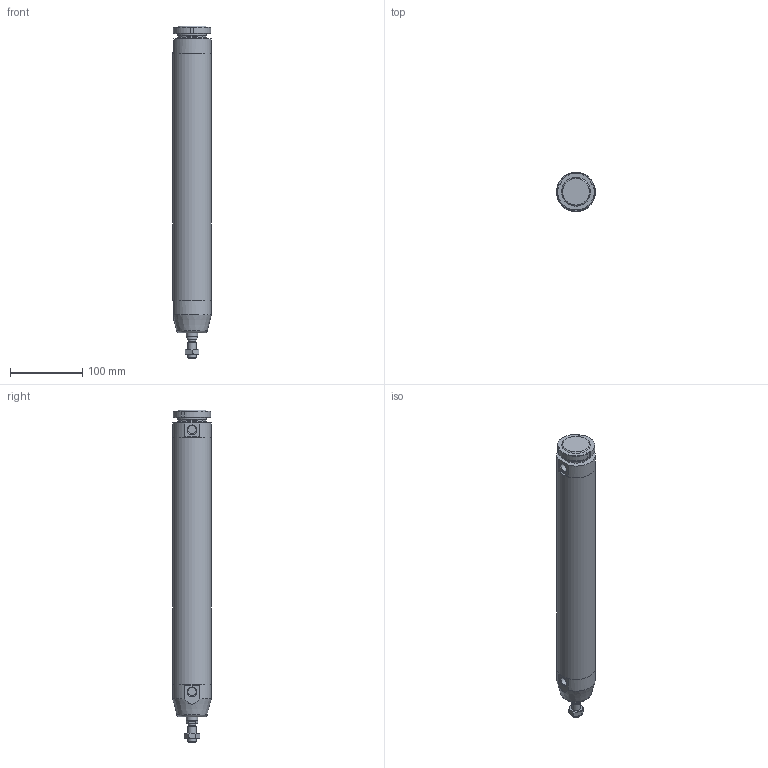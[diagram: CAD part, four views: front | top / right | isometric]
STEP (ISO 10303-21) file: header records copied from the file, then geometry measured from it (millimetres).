
FILE_DESCRIPTION(/* description */ (''),/* implementation_level */ '2;1');
FILE_NAME(/* name */ 'I:\Area Tecnica\Documenti\A-Manieri\_Inventor\12X\12X#B_###_####_#_#\12XAB_050_0300_#_#.stp',/* time_stamp */ '2015-04-27T16:25:41+02:00',/* author */ ('maniean1'),/* organization */ ('Pneumax S.p.A.'),/* preprocessor_version */ 'ST-DEVELOPER v15.2',/* originating_system */ 'Autodesk Inventor 2014',/* authorisation */ '');
FILE_SCHEMA (('AUTOMOTIVE_DESIGN { 1 0 10303 214 3 1 1 }'));
Length unit declared in the file: millimetre
Products named in the file (7): C1250_619-0300; 12X50_613; S12X50_0300; 12X_50_11; 12X50_620; G12X_050_05; 12XAB_050_0300_#_#
Bounding box: 54 x 54 x 460 mm (x, y, z)
Volume: 425174.1 mm3; surface area: 170162.8 mm2
Topology: 6 solids, 6 shells, 80 faces, 175 edges, 112 vertices
Faces by surface type: plane 40, cylinder 20, cone 19, torus 1
Full cylindrical faces by diameter (mm): 10.2 x1, 11.4 x2, 12 x2, 14 x1, 15.6 x1, 16 x1, 38.2 x1, 40 x3, 50 x2, 54 x3
Entity records: 2134 total; most frequent: CARTESIAN_POINT 399, DIRECTION 359, ORIENTED_EDGE 282, AXIS2_PLACEMENT_3D 154, EDGE_CURVE 141, EDGE_LOOP 122, VERTEX_POINT 107, ADVANCED_FACE 80
